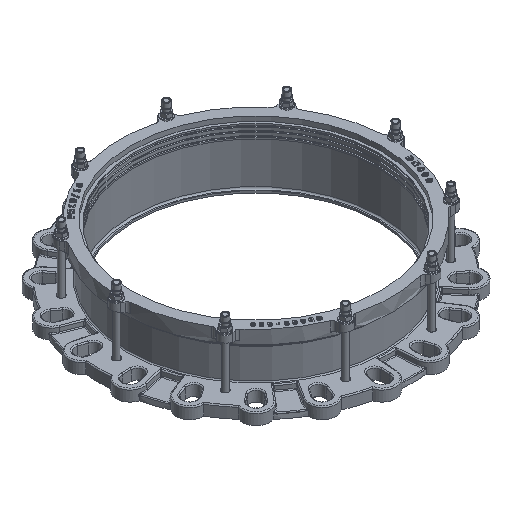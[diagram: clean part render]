
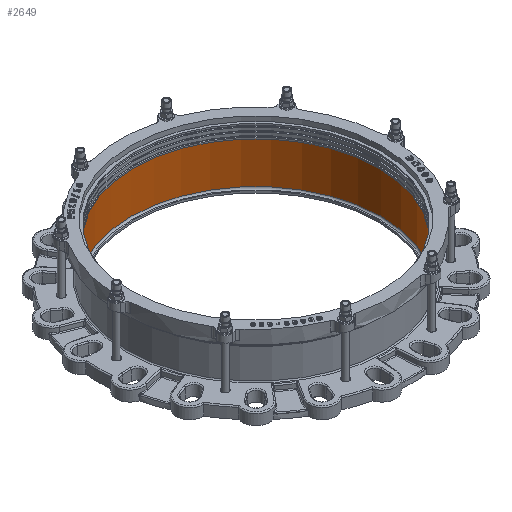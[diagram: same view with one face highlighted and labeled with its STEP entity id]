
A CAD part, isometric view. The second image highlights one B-rep face of the part: STEP entity #2649.
In plain terms, the highlighted cylindrical face has radius 318 mm (diameter 636 mm), a full revolution.
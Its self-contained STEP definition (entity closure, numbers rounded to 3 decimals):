
#2649=ADVANCED_FACE('',(#19858,#19860),#19862,.F.);
#19858=FACE_OUTER_BOUND('',#19859,.T.);
#19859=EDGE_LOOP('',(#28620));
#19860=FACE_OUTER_BOUND('',#19861,.T.);
#19861=EDGE_LOOP('',(#28621));
#19862=CYLINDRICAL_SURFACE('',#19863,318.);
#19863=AXIS2_PLACEMENT_3D('',#19864,#19865,#19866);
#19864=CARTESIAN_POINT('',(0.,0.,5.));
#19865=DIRECTION('',(0.,0.,1.));
#19866=DIRECTION('',(-1.,0.,0.));
#28620=ORIENTED_EDGE('',*,*,#35787,.F.);
#28621=ORIENTED_EDGE('',*,*,#35788,.T.);
#35787=EDGE_CURVE('',#40745,#40745,#40746,.T.);
#35788=EDGE_CURVE('',#40747,#40747,#40748,.F.);
#40745=VERTEX_POINT('',#60191);
#40746=CIRCLE('',#60192,318.);
#40747=VERTEX_POINT('',#60196);
#40748=CIRCLE('',#60197,318.);
#60191=CARTESIAN_POINT('',(0.,318.,116.));
#60192=AXIS2_PLACEMENT_3D('',#60193,#60194,#60195);
#60193=CARTESIAN_POINT('',(0.,0.,116.));
#60194=DIRECTION('',(0.,0.,-1.));
#60195=DIRECTION('',(0.,1.,0.));
#60196=CARTESIAN_POINT('',(0.,318.,9.));
#60197=AXIS2_PLACEMENT_3D('',#60198,#60199,#60200);
#60198=CARTESIAN_POINT('',(0.,0.,9.));
#60199=DIRECTION('',(0.,0.,1.));
#60200=DIRECTION('',(0.,1.,0.));
